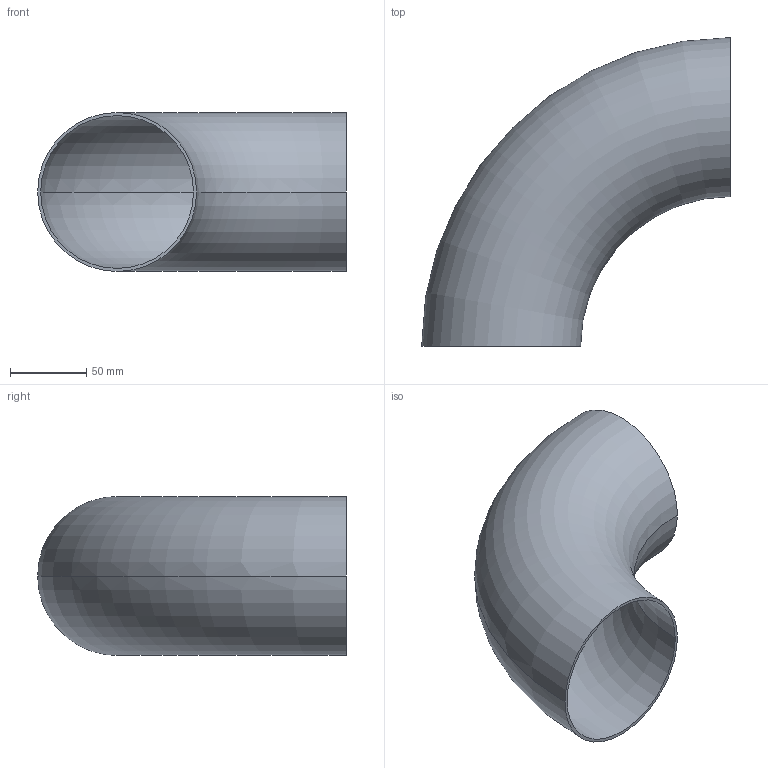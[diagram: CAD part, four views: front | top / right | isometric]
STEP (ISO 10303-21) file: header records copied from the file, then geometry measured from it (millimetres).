
FILE_DESCRIPTION (( 'STEP AP203' ), '1' );
FILE_NAME ('OT212-100-104x2_OSTP.step', '2020-12-16T02:43:40', ( '' ), ( '' ), 'SwSTEP 2.0', 'SolidWorks 2014', '' );
FILE_SCHEMA (( 'CONFIG_CONTROL_DESIGN' ));
Length unit declared in the file: millimetre
Products named in the file (1): OT212-100-104x2_OSTP
Bounding box: 202 x 202 x 104 mm (x, y, z)
Volume: 151004.9 mm3; surface area: 152286.7 mm2
Topology: 1 solids, 1 shells, 6 faces, 12 edges, 8 vertices
Faces by surface type: torus 4, plane 2
Entity records: 249 total; most frequent: DIRECTION 38, CARTESIAN_POINT 27, ORIENTED_EDGE 24, AXIS2_PLACEMENT_3D 19, EDGE_CURVE 12, CIRCLE 12, EDGE_LOOP 8, VERTEX_POINT 8
